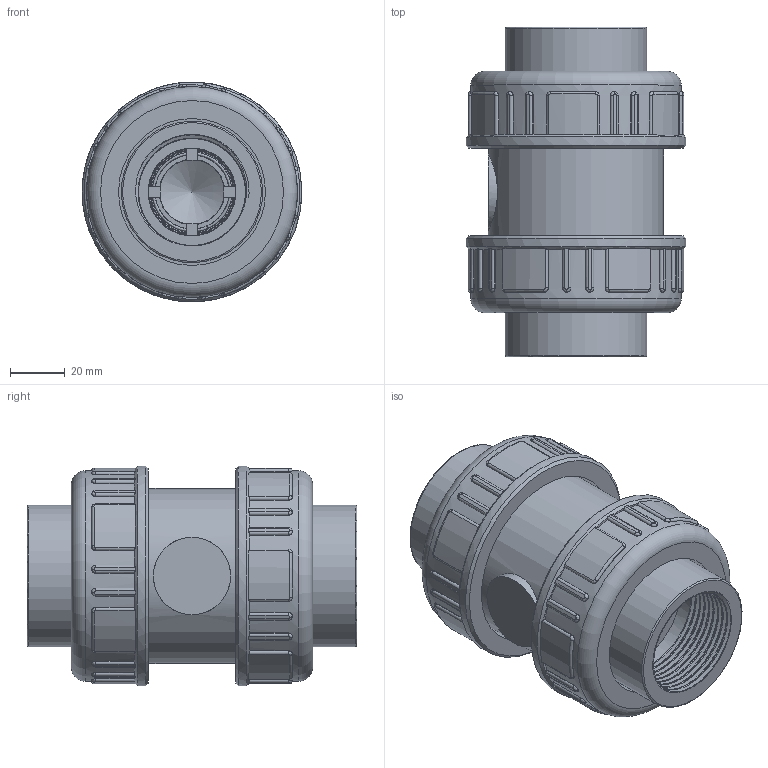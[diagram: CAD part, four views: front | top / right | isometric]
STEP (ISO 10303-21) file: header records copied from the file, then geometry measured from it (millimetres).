
FILE_DESCRIPTION(/* description */ (''),/* implementation_level */ '2;1');
FILE_NAME(/* name */ 'C:\Users\POLYPIPE\Desktop\DATASET INVENTOR\LIBRERIA EFFAST\3D_VALVOLE\3D_VALVOLE NON RITORNO\3D_CV\3D_CERCVE\3D_CERCVE040E.stp',/* time_stamp */ '2018-01-24T17:10:36+01:00',/* author */ ('POLYPIPE'),/* organization */ (''),/* preprocessor_version */ 'ST-DEVELOPER v16.1',/* originating_system */ 'Autodesk Inventor 2016',/* authorisation */ '');
FILE_SCHEMA (('CONFIG_CONTROL_DESIGN'));
Products named in the file (1): 3D_CERCVE040E
Bounding box: 80 x 120 x 80 mm (x, y, z)
Volume: 258050 mm3; surface area: 99326.3 mm2
Topology: 3 solids, 5 shells, 563 faces, 1465 edges, 926 vertices
Faces by surface type: plane 205, bspline 156, cylinder 151, torus 41, cone 10
Full cylindrical faces by diameter (mm): 30.6 x1, 31.4 x1, 31.7 x1, 31.8 x1, 32 x2, 35.3 x2, 38.6 x1, 38.952 x2, 39 x1, 40.6 x1, 47 x1, 47.3 x1, 47.4 x1, 51.5 x2, 53 x1, 53.5 x2, 53.7 x1, 54.3 x1, 54.9 x1, 60 x2, 63.7 x1, 65.6 x2, 76.6 x2, 80 x2
Entity records: 68569 total; most frequent: CARTESIAN_POINT 55378, ORIENTED_EDGE 2762, DIRECTION 2312, EDGE_CURVE 1379, VERTEX_POINT 905, AXIS2_PLACEMENT_3D 883, EDGE_LOOP 658, STYLED_ITEM 564
